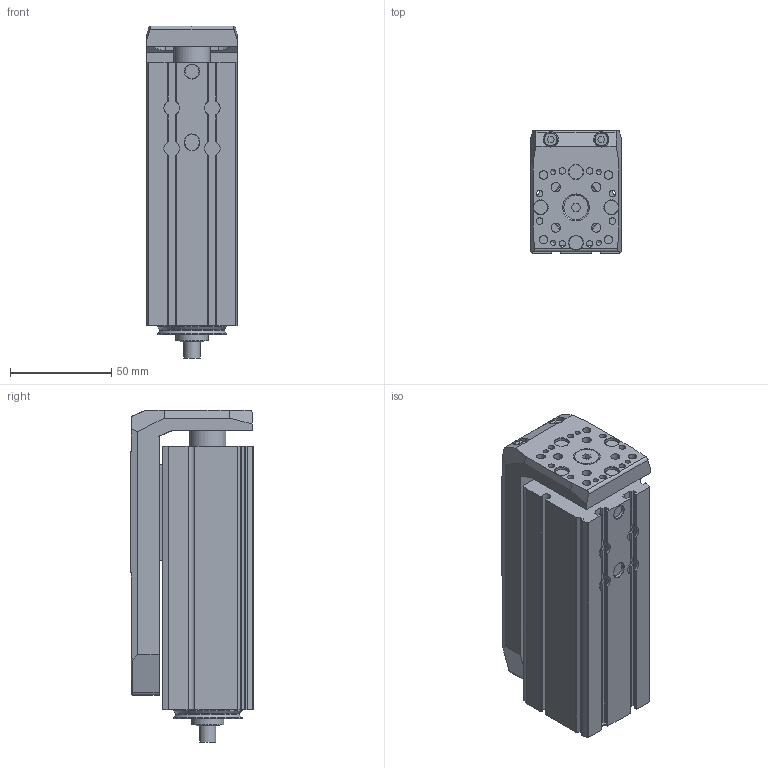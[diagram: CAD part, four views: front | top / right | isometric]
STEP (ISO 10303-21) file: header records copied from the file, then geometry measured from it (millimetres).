
FILE_DESCRIPTION(/* description */ ('STEP AP214'),/* implementation_level */ '2;1');
FILE_NAME(/* name */ 'MSCE 45 1010 50(0)',/* time_stamp */ '2023-10-09T11:31:05+02:00',/* author */ ('License CC BY-ND 4.0'),/* organization */ ('CADENAS'),/* preprocessor_version */ 'ST-DEVELOPER v19.3',/* originating_system */ 'PARTsolutions',/* authorisation */ ' ');
FILE_SCHEMA (('AUTOMOTIVE_DESIGN {1 0 10303 214 3 1 1}'));
Length unit declared in the file: millimetre
Products named in the file (3): MSCE 45 1010 50(0); 45(50)_prp; 45(50)_msce
Assembly tree (2 placements, depth 2):
  MSCE 45 1010 50(0)
    45(50)_prp
    45(50)_msce
Bounding box: 45 x 60.5 x 164 mm (x, y, z)
Volume: 316143.6 mm3; surface area: 87142.9 mm2
Topology: 2 solids, 2 shells, 436 faces, 1125 edges, 741 vertices
Faces by surface type: plane 208, cylinder 198, cone 23, torus 7
Full cylindrical faces by diameter (mm): 2.459 x8, 3.2 x8, 3.242 x8, 4 x2, 4.134 x4, 4.5 x4, 6 x8, 7 x7, 7.5 x4, 7.6 x2, 8 x1, 12 x1, 16 x1, 18 x2, 24 x1, 24.5 x1, 34 x2, 37.5 x2
Entity records: 14172 total; most frequent: CARTESIAN_POINT 2561, DIRECTION 2180, ORIENTED_EDGE 2034, EDGE_CURVE 1017, AXIS2_PLACEMENT_3D 825, VERTEX_POINT 729, FACE_BOUND 612, EDGE_LOOP 608
